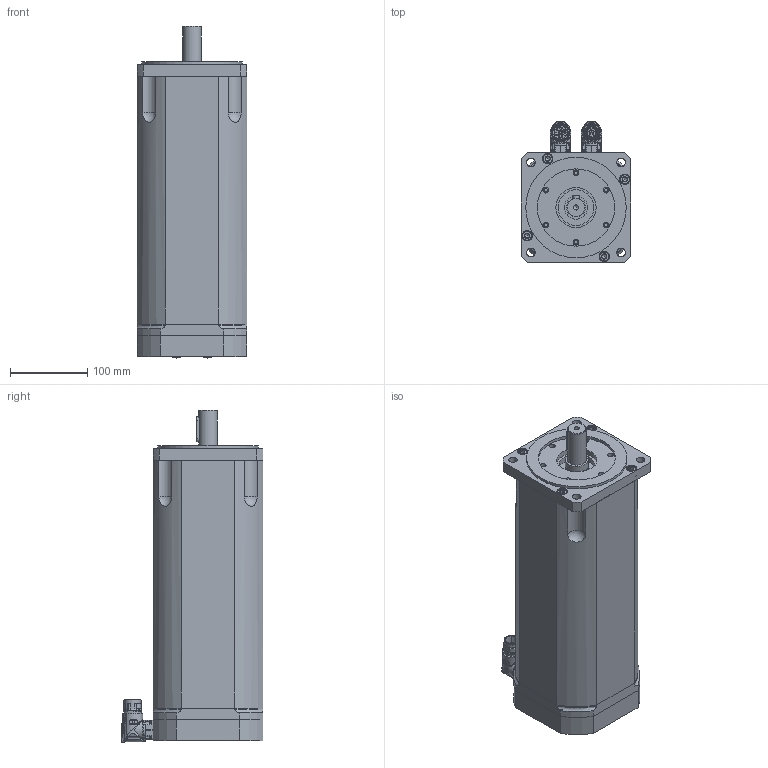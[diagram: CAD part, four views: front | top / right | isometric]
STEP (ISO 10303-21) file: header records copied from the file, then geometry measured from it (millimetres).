
FILE_DESCRIPTION(/* description */ (''),/* implementation_level */ '2;1');
FILE_NAME(/* name */ 'C:\Users\Public\Documents\Autodesk\Inventor LT 2014\Workspace\Motori Sito WEB\TG_5\STEP_DSM5_5x\DSM5_54_x197.stp',/* time_stamp */ '2021-03-31T14:18:13+02:00',/* author */ ('marcor'),/* organization */ (''),/* preprocessor_version */ 'ST-DEVELOPER v15.2',/* originating_system */ 'Autodesk Inventor LT ',/* authorisation */ '');
FILE_SCHEMA (('AUTOMOTIVE_DESIGN { 1 0 10303 214 3 1 1 }'));
Products named in the file (1): DSM5_54_x197
Bounding box: 142 x 183.5 x 429.41 mm (x, y, z)
Volume: 6920938.7 mm3; surface area: 387292.4 mm2
Topology: 16 solids, 36 shells, 1554 faces, 4008 edges, 2665 vertices
Faces by surface type: plane 541, cylinder 449, cone 344, bspline 111, torus 77, sphere 32
Full cylindrical faces by diameter (mm): 1.2 x17, 2.013 x8, 2.224 x8, 2.233 x6, 2.5 x8, 2.88 x8, 3.26 x8, 4.5 x8, 4.8 x8, 4.917 x4, 5.5 x3, 5.9 x2, 6 x4, 6.5 x4, 6.647 x9, 7.5 x6, 8 x8, 8.5 x8, 10 x4, 11 x8, 13 x8, 13.5 x8, 15.2 x1, 17.4 x3, 18 x1, 19.8 x1, 20 x2, 21.15 x4, 21.6 x1, 21.653 x2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
Entity records: 54222 total; most frequent: CARTESIAN_POINT 18215, ORIENTED_EDGE 7054, DIRECTION 6725, EDGE_CURVE 3527, AXIS2_PLACEMENT_3D 2746, VERTEX_POINT 2540, EDGE_LOOP 2115, ADVANCED_FACE 1554
